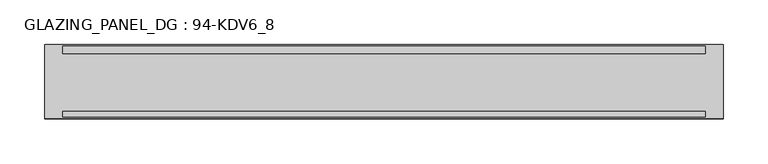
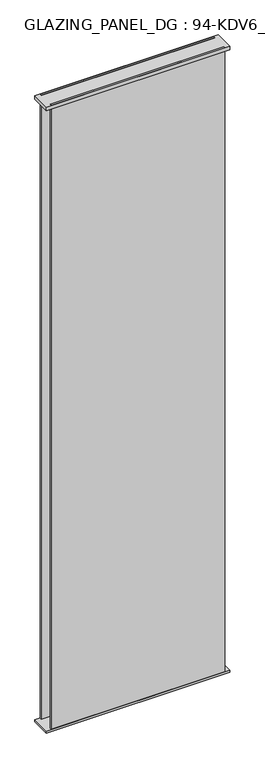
"""IFC4 building model written with IfcOpenShell, lengths in millimetres: plate geometry, GLAZING_PANEL_DG : 94-KDV6_8."""

from ifc_helpers import new_model, si_unit, frame, origin, origin_with_axes, place, context, project, spatial, polyline, outline, extrude, source, transform, mapped, element, save


def glazing_panel_dg_94_kdv6_8_02496a73(model_context):
    return source(origin(), model_context, "Body", "SweptSolid", [
        extrude(outline(polyline([(359.6, -39.5), (-359.6, -39.5), (-359.6, -33.5), (359.6, -33.5), (359.6, -39.5)])), origin_with_axes(), (0.0, 0.0, 1.0), 2739.0),
        extrude(outline(polyline([(359.6, 31.5), (-359.6, 31.5), (-359.6, 39.5), (359.6, 39.5), (359.6, 31.5)])), origin_with_axes(), (0.0, 0.0, 1.0), 2739.0),
        extrude(outline(polyline([(379.6, 41.5), (379.6, -41.5), (-379.6, -41.5), (-379.6, 41.5), (379.6, 41.5)])), frame((0.0, 0.0, 2724.0), z_axis=(0.0, 0.0, 1.0), x_axis=(1.0, 0.0, 0.0)), (0.0, 0.0, 1.0), 15.0),
        extrude(outline(polyline([(379.6, -41.5), (-379.6, -41.5), (-379.6, 41.5), (379.6, 41.5), (379.6, -41.5)])), origin_with_axes(), (0.0, 0.0, 1.0), 9.0),
    ])


if __name__ == "__main__":
    model = new_model("IFC4")
    model_context = context("Model", 3, world=origin())
    ifc_project = project(units=[si_unit("LENGTHUNIT", "METRE", prefix="MILLI")], contexts=[model_context])
    site = spatial("IfcSite", under=ifc_project)
    building = spatial("IfcBuilding", under=site)
    placement = place(None, origin())
    glazing_panel_dg_94_kdv6_8_shape = glazing_panel_dg_94_kdv6_8_02496a73(model_context)
    element("IfcPlate", 1, ObjectType="GLAZING_PANEL_DG : 94-KDV6_8", at=placement, inside=building, context=model_context, shape_type="MappedRepresentation", body=[
        mapped(glazing_panel_dg_94_kdv6_8_shape, transform((0.0, 0.0, 0.0), x_axis=(1.0, 0.0, 0.0), y_axis=(0.0, 1.0, 0.0), z_axis=(0.0, 0.0, 1.0))),
    ])
    save(model, "model.ifc")
